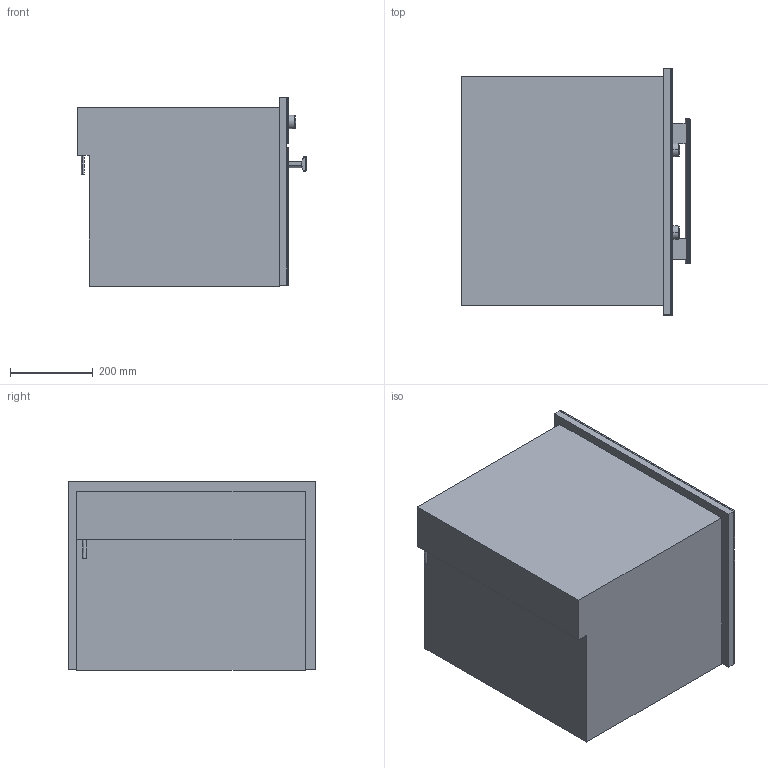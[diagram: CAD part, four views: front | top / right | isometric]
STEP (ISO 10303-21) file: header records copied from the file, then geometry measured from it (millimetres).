
FILE_DESCRIPTION(/* description */ (''),/* implementation_level */ '2;1');
FILE_NAME(/* name */ 'M6262_HVBR',/* time_stamp */ '2013-04-22T14:50:27+02:00',/* author */ (''),/* organization */ (''),/* preprocessor_version */ 'ST-DEVELOPER v10',/* originating_system */ '',/* authorisation */ '');
FILE_SCHEMA (('AUTOMOTIVE_DESIGN_CC2'));
Length unit declared in the file: millimetre
Products named in the file (1): 1
Bounding box: 551.84 x 595.12 x 455.63 mm (x, y, z)
Volume: 70614186.2 mm3; surface area: 3392565.1 mm2
Topology: 11 solids, 11 shells, 113 faces, 242 edges, 145 vertices
Faces by surface type: bspline 113
Entity records: 3473 total; most frequent: CARTESIAN_POINT 1944, ORIENTED_EDGE 464, EDGE_CURVE 232, VERTEX_POINT 145, B_SPLINE_CURVE_WITH_KNOTS 140, EDGE_LOOP 119, ADVANCED_FACE 113, FACE_OUTER_BOUND 113
